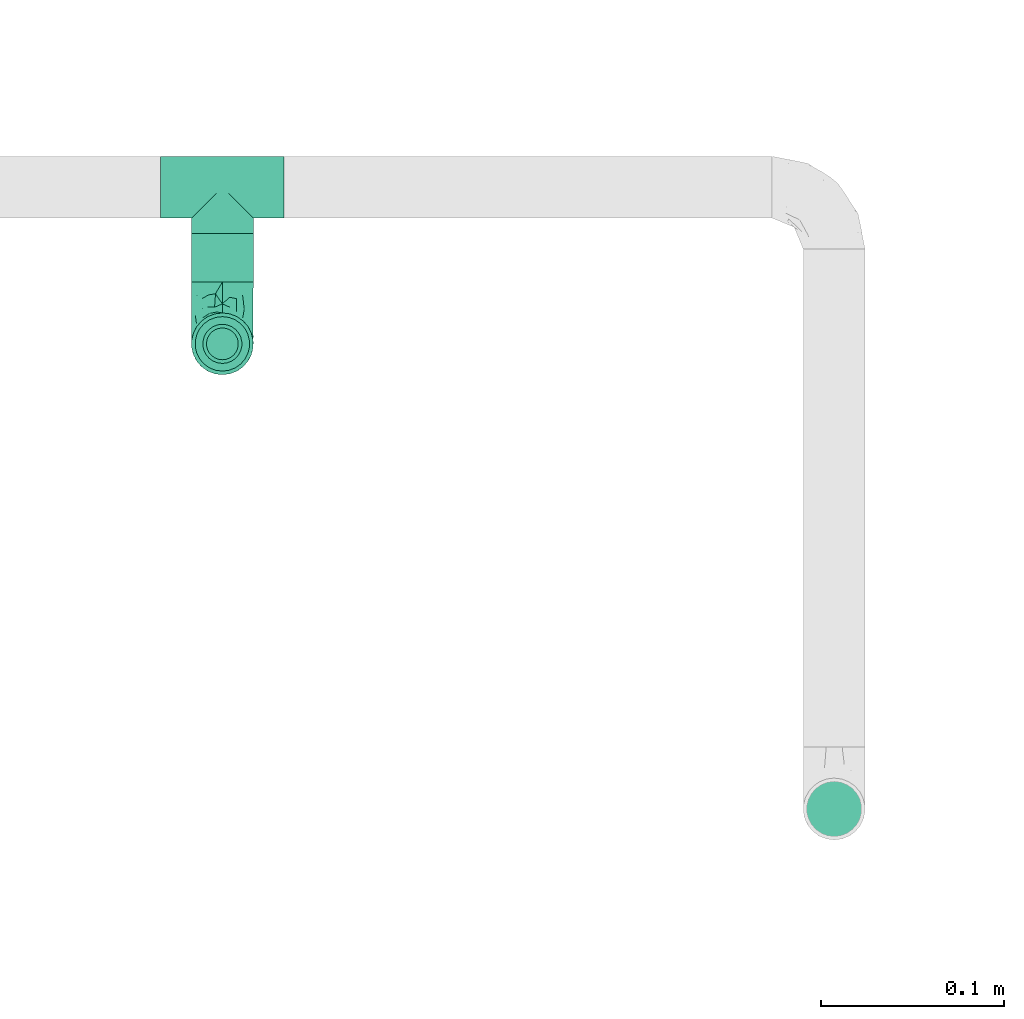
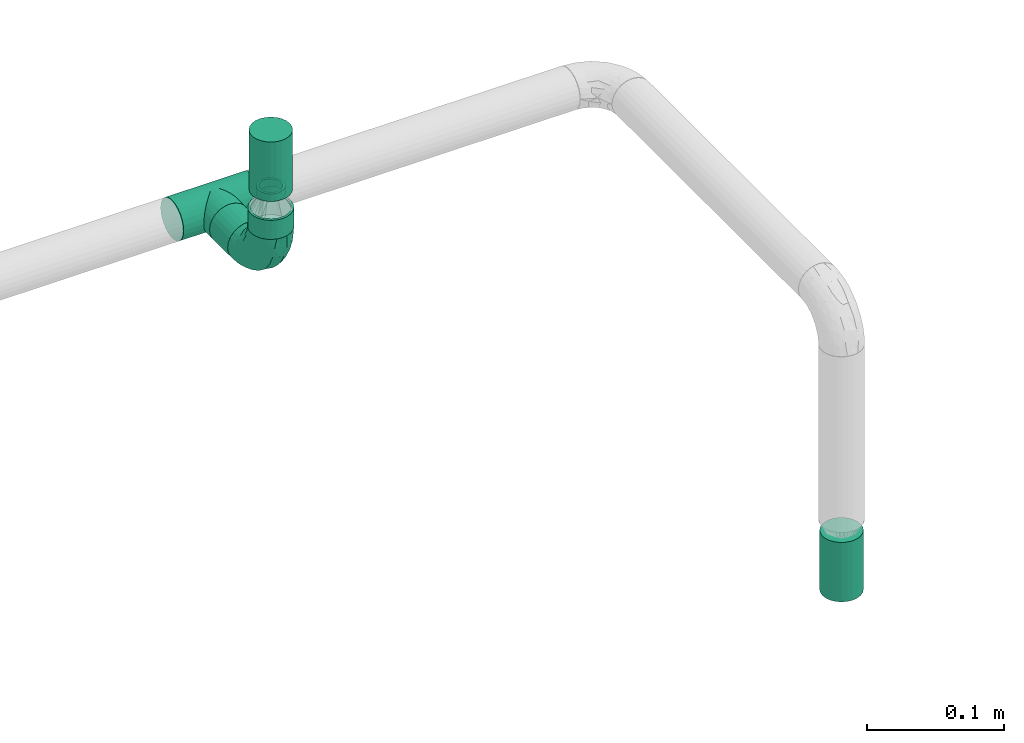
# One storey, part 66 of 95: 3 flow segments, 2 flow fittings, 2 flow terminals.
"""IFC2X3 building model written with IfcOpenShell, lengths in millimetres."""

from ifc_helpers import new_model, entity, si_unit, converted_unit, derived_unit, direction, frame, origin_with_axes, origin_2d_with_axis, place, context, subcontext, project, spatial, hollow_circle, extrude, open_shell, surface_model, source, transform, mapped, type_object, element, save


model = new_model("IFC2X3")

# Units and contexts
model_context = context("Model", 3, precision=0.01, world=frame((0.0, 4.29681676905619e-09, 0.0)), true_north=direction((4.01073788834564e-13, 1.0)))
plan_context = context("Plan", 3, precision=0.01, world=frame((0.0, 4.29681676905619e-09, 0.0)), true_north=direction((4.01073788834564e-13, 1.0)))
body_context = subcontext(model_context, "Body", "Model", "MODEL_VIEW")
ifc_project = project(units=[converted_unit("PLANEANGLEUNIT", "DEGREE", entity("IfcPositiveLengthMeasure", 0.0174532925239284), si_unit("PLANEANGLEUNIT", "RADIAN"), dimensions=[0, 0, 0, 0, 0, 0, 0]), si_unit("AREAUNIT", "SQUARE_METRE"), si_unit("LENGTHUNIT", "METRE", prefix="MILLI"), si_unit("MASSUNIT", "GRAM", prefix="KILO"), si_unit("POWERUNIT", "WATT"), si_unit("PRESSUREUNIT", "PASCAL"), si_unit("FORCEUNIT", "NEWTON", prefix="KILO"), si_unit("ELECTRICVOLTAGEUNIT", "VOLT"), si_unit("ELECTRICCURRENTUNIT", "AMPERE"), si_unit("THERMODYNAMICTEMPERATUREUNIT", "DEGREE_CELSIUS"), si_unit("TIMEUNIT", "SECOND"), si_unit("VOLUMEUNIT", "CUBIC_METRE"), derived_unit("LINEARVELOCITYUNIT", [(si_unit("LENGTHUNIT", "METRE"), 1), (si_unit("TIMEUNIT", "SECOND"), -1)]), derived_unit("VOLUMETRICFLOWRATEUNIT", [(si_unit("VOLUMEUNIT", "CUBIC_METRE"), 1), (si_unit("TIMEUNIT", "SECOND"), -1)]), derived_unit("THERMALTRANSMITTANCEUNIT", [(si_unit("POWERUNIT", "WATT"), 1), (si_unit("THERMODYNAMICTEMPERATUREUNIT", "KELVIN"), -1), (si_unit("AREAUNIT", "SQUARE_METRE"), -1)]), derived_unit("SOUNDPRESSUREUNIT", [(si_unit("PRESSUREUNIT", "PASCAL"), 1)])], contexts=[model_context, plan_context])

# Site, building, storey
site_placement = place(None, frame((0.0, -4.29681676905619e-09, 0.0), z_axis=(0.0, 0.0, 1.0), x_axis=(1.0, 0.0, 0.0)))
site = spatial("IfcSite", under=ifc_project, at=site_placement, CompositionType="ELEMENT")
building_placement = place(site_placement, frame((0.0, 4.29681676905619e-09, 0.0), z_axis=(0.0, 0.0, 1.0), x_axis=(1.0, 0.0, 0.0)))
building = spatial("IfcBuilding", under=site, at=building_placement, Name="mc-building", CompositionType="ELEMENT")
storey_placement = place(building_placement, frame((0.0, 0.0, 210900.0), z_axis=(0.0, 0.0, 1.0), x_axis=(1.0, 0.0, 0.0)))
storey = spatial("IfcBuildingStorey", under=building, at=storey_placement, Name="Nivå F", CompositionType="ELEMENT", Elevation=210900.0)

# Flow fittings
pipe_fitting_type_1 = type_object("IfcPipeFittingType", Name="magi_pipe_fe_elbow_short_001", PredefinedType="BEND")
shared_shape_1 = source(origin_with_axes(), body_context, "Body", "SurfaceModel", [
    surface_model("IfcShellBasedSurfaceModel", [(-33.8, 8.45, -14.63583), (-33.8, 4.37404, -16.32415), (-33.8, 11.9501, -11.9501), (-33.8, -11.9501, -11.9501), (-33.8, -14.63583, -8.45), (-33.8, -8.45, -14.63583), (-33.8, 0.0, -16.9), (-33.8, -4.37404, -16.32415), (-33.8, -4.37404, 16.32415), (-33.8, 0.0, 16.9), (-33.8, -8.45, 14.63583), (-33.8, 16.32415, -4.37404), (-33.8, 14.63583, -8.45), (-33.8, -16.32415, -4.37404), (-33.8, -16.9, 0.0), (-33.8, -16.32415, 4.37404), (-33.8, 11.9501, 11.9501), (-33.8, 14.63583, 8.45), (-33.8, 16.32415, 4.37404), (-33.8, 4.37404, 16.32415), (-33.8, 8.45, 14.63583), (-33.8, -14.63583, 8.45), (-33.8, -11.9501, 11.9501), (-33.8, 16.9, 0.0), (-11.9501, 33.8, -11.9501), (0.0, 33.8, -16.9), (-4.37404, 33.8, -16.32415), (-8.45, 33.8, -14.63583), (-14.63583, 33.8, -8.45), (-16.32415, 33.8, -4.37404), (14.63583, 33.8, -8.45), (8.45, 33.8, 14.63583), (16.32415, 33.8, -4.37404), (8.45, 33.8, -14.63583), (11.9501, 33.8, -11.9501), (4.37404, 33.8, -16.32415), (16.32415, 33.8, 4.37404), (16.9, 33.8, 0.0), (-11.9501, 33.8, 11.9501), (-16.32415, 33.8, 4.37404), (-14.63583, 33.8, 8.45), (-8.45, 33.8, 14.63583), (-4.37404, 33.8, 16.32415), (11.9501, 33.8, 11.9501), (14.63583, 33.8, 8.45), (0.0, 33.8, 16.9), (4.37404, 33.8, 16.32415), (-16.9, 33.8, 0.0), (-24.79389, -13.12945, 9.48721), (-22.19287, -9.75018, 12.59315), (-24.09897, -14.97035, 0.0), (-14.93934, -10.76256, 8.5297), (-22.46095, -14.75051, 5.27077), (14.75051, 22.46094, 5.27077), (11.9251, 13.23888, 4.33236), (13.04069, 14.39795, 0.0), (7.71387, 13.68847, 11.55891), (9.75018, 22.19287, 12.59315), (4.10169, 13.0571, 14.04018), (-24.84007, -6.39063, 15.2048), (-25.81779, -2.23879, 16.61097), (-23.66549, 2.59054, 16.87119), (-26.50418, 14.06512, 11.08152), (-24.21253, 17.66365, 7.72657), (-29.58514, 15.86957, 7.00283), (-6.17382, -7.5455, 0.0), (-13.23888, -11.9251, 4.33236), (-14.39795, -13.04069, 0.0), (-17.81434, 18.87373, 11.97104), (-6.30846, 29.15138, 15.82987), (-2.31622, 25.28002, 16.85849), (-29.23923, 10.23435, 13.77053), (-1.45439, -2.85688, 7.61475), (-0.28326, 0.34872, 10.09509), (-5.74484, -4.04709, 10.4122), (-4.41137, 11.31918, 16.59407), (-8.39727, 3.10034, 15.7812), (-1.72649, 9.1306, 15.53089), (-17.39909, 24.75344, 7.64977), (-26.19233, 20.0512, 0.0), (-28.14518, 17.29657, 4.25857), (-26.05147, 6.6281, 15.96447), (-5.87354, 16.61944, 16.86968), (-12.51807, 12.51807, 16.48937), (-10.06312, 7.38516, 16.81295), (-3.01882, 3.01882, 13.81718), (-13.0571, -4.10169, 14.04018), (-16.82553, -0.15166, 16.38038), (10.76256, 14.93934, 8.5297), (13.12945, 24.79389, 9.48721), (6.39063, 24.84007, 15.2048), (2.23879, 25.81779, 16.61097), (-13.68847, -7.71387, 11.55891), (14.97035, 24.09897, 0.0), (-7.30894, 22.89991, 16.09489), (-10.67958, 26.17414, 14.008), (-12.78295, 18.26924, 15.06066), (-13.88562, 22.45231, 12.93244), (-18.04944, 15.16501, 14.04434), (-23.11658, 20.08178, 4.02986), (-21.84989, 21.84989, 0.0), (-18.55817, 25.48277, 3.93065), (-13.95142, 26.94732, 11.03289), (-18.57098, 7.23906, 16.59756), (-16.58335, 4.14122, 16.89279), (-17.96666, 11.46709, 15.63151), (-9.84453, 17.54304, 16.18938), (0.15166, 16.82553, 16.38038), (-23.27207, 11.47201, 14.23154), (3.84842, 5.86994, 10.70473), (-8.0212, -7.54413, 7.93275), (1.00345, -2.19508, 4.57414), (5.13203, 3.01004, 5.90201), (5.24161, 1.7543, 2.53265), (8.70457, 7.04947, 3.99182), (-20.0512, 26.19233, 0.0), (8.4852, 8.76699, 7.09296), (-4.55488, -6.72064, 4.90681), (2.05031, -2.05031, 0.0), (7.5455, 6.17382, 0.0), (-26.75399, 2.1369, -16.845), (-14.61995, 24.73803, -11.27736), (-28.45274, -13.45335, -9.81895), (-26.00469, 6.63555, -15.96645), (-23.06726, 20.04573, -4.26202), (-13.80647, -4.26506, -14.17873), (-14.67501, -0.21081, -16.07388), (-6.7902, -0.2828, -13.8478), (-24.53586, 11.08096, -14.13417), (-26.72048, 14.00837, -11.05776), (10.0967, 24.44989, -12.75976), (5.83237, 21.40218, -15.03047), (6.66249, 28.54238, -15.38093), (-20.38182, 15.48705, -12.74596), (12.53268, 21.23441, -9.15363), (12.54494, 15.67504, -5.54878), (9.7522, 12.89279, -8.66343), (-15.65186, 19.64213, -13.01327), (-12.03528, 20.66498, -14.67665), (-15.61907, 15.61906, -14.83879), (-25.56551, -15.26206, 0.0), (-24.65452, -15.12934, -5.50955), (13.45335, 28.45274, -9.81895), (15.12934, 24.65452, -5.50955), (-7.35442, -8.31014, -5.65563), (-15.67504, -12.54494, -5.54878), (-24.44989, -10.0967, -12.75976), (0.16522, 0.41303, -9.71728), (-5.70658, -5.33066, -8.89288), (-5.13869, -2.37198, -11.53565), (-21.23441, -12.53268, -9.15363), (0.71146, 7.93863, -14.09382), (0.21081, 14.67501, -16.07388), (3.49291, 14.42772, -14.76381), (-24.89911, -2.13088, -16.591), (-28.54238, -6.66249, -15.38093), (-18.44386, -7.71663, -13.26957), (2.13088, 24.89911, -16.591), (-28.64342, 17.44413, -2.89318), (1.70017, -1.28722, -5.09504), (-16.57067, 26.81947, -7.36596), (-17.69055, 27.4263, -3.76405), (-12.89279, -9.7522, -8.66343), (-5.96611, 5.96611, -15.95814), (-20.53709, 20.09345, -8.28985), (-2.1369, 26.75399, -16.845), (-6.89872, 24.58781, -16.02578), (-10.60739, 26.53157, -13.98044), (-21.40218, -5.83237, -15.03047), (2.93192, 5.89627, -11.55917), (6.89393, 12.61842, -11.82233), (5.58056, 5.95325, -8.79455), (-3.99512, 18.61798, -16.89635), (8.31014, 7.35442, -5.65563), (-9.1383, 9.86148, -16.89041), (-9.99983, 16.02119, -16.39699), (-16.68576, 9.78031, -16.34199), (-27.01915, 16.61158, -7.12979), (15.26206, 25.56551, 0.0), (-18.61798, 3.99512, -16.89635), (-19.37495, 27.82495, 0.0), (-12.61842, -6.89393, -11.82233), (-18.84705, 19.14018, -10.96545)], [open_shell([[[0, 1, 2]], [[3, 4, 5]], [[6, 7, 5]], [[8, 9, 10]], [[1, 6, 2]], [[11, 12, 2]], [[4, 2, 6]], [[2, 13, 10]], [[5, 4, 6]], [[2, 4, 13]], [[14, 15, 13]], [[11, 2, 16]], [[11, 17, 18]], [[11, 16, 17]], [[19, 20, 16]], [[16, 2, 10]], [[19, 16, 10]], [[21, 22, 15]], [[22, 13, 15]], [[22, 10, 13]], [[10, 9, 19]], [[11, 18, 23]], [[24, 25, 26]], [[24, 26, 27]], [[24, 28, 29]], [[25, 24, 30]], [[31, 32, 24]], [[33, 30, 34]], [[33, 35, 25]], [[25, 30, 33]], [[32, 30, 24]], [[32, 36, 37]], [[38, 24, 29]], [[39, 40, 29]], [[40, 38, 29]], [[38, 41, 42]], [[38, 31, 24]], [[31, 38, 42]], [[36, 43, 44]], [[36, 32, 43]], [[31, 45, 46]], [[32, 31, 43]], [[42, 45, 31]], [[39, 29, 47]], [[22, 48, 49]], [[15, 14, 50]], [[51, 48, 52]], [[53, 54, 55]], [[48, 22, 21]], [[15, 52, 21]], [[56, 57, 58]], [[49, 10, 22]], [[49, 59, 10]], [[9, 60, 61]], [[62, 63, 64]], [[65, 66, 67]], [[57, 43, 31]], [[62, 68, 63]], [[42, 69, 70]], [[20, 71, 16]], [[8, 60, 9]], [[72, 73, 74]], [[75, 76, 77]], [[16, 62, 17]], [[40, 39, 78]], [[79, 23, 80]], [[64, 18, 17]], [[9, 61, 19]], [[19, 81, 20]], [[82, 83, 84]], [[74, 85, 86]], [[59, 86, 87]], [[88, 89, 57]], [[90, 31, 46]], [[44, 53, 36]], [[46, 45, 91]], [[54, 53, 88]], [[44, 89, 53]], [[92, 86, 49]], [[89, 44, 43]], [[10, 59, 8]], [[53, 55, 93]], [[93, 36, 53]], [[66, 52, 67]], [[94, 82, 70]], [[95, 96, 94]], [[97, 98, 96]], [[79, 99, 100]], [[41, 38, 95]], [[101, 100, 99]], [[68, 78, 63]], [[42, 41, 69]], [[23, 18, 80]], [[95, 94, 69]], [[78, 101, 99]], [[38, 102, 95]], [[70, 45, 42]], [[97, 95, 102]], [[15, 50, 52]], [[90, 57, 31]], [[57, 90, 58]], [[81, 19, 61]], [[103, 104, 84]], [[105, 81, 103]], [[38, 40, 102]], [[106, 96, 83]], [[94, 106, 82]], [[91, 70, 107]], [[71, 62, 16]], [[62, 108, 98]], [[86, 59, 49]], [[67, 52, 50]], [[60, 59, 87]], [[92, 49, 51]], [[86, 85, 76]], [[91, 90, 46]], [[37, 36, 93]], [[107, 77, 58]], [[107, 58, 90]], [[58, 85, 109]], [[110, 74, 92]], [[72, 74, 110]], [[66, 51, 52]], [[72, 111, 112]], [[113, 114, 112]], [[56, 88, 57]], [[52, 48, 21]], [[49, 48, 51]], [[57, 89, 43]], [[53, 89, 88]], [[103, 81, 61]], [[71, 81, 108]], [[18, 64, 80]], [[63, 78, 99]], [[47, 115, 101]], [[101, 115, 100]], [[40, 78, 102]], [[68, 102, 78]], [[97, 96, 95]], [[105, 98, 108]], [[103, 84, 83]], [[107, 70, 82]], [[76, 84, 87]], [[82, 84, 75]], [[70, 91, 45]], [[90, 91, 107]], [[59, 60, 8]], [[61, 60, 87]], [[73, 85, 74]], [[109, 112, 116]], [[103, 61, 104]], [[105, 103, 83]], [[96, 105, 83]], [[81, 105, 108]], [[96, 98, 105]], [[62, 98, 68]], [[61, 87, 104]], [[87, 84, 104]], [[86, 76, 87]], [[77, 76, 85]], [[58, 77, 85]], [[75, 77, 107]], [[82, 75, 107]], [[76, 75, 84]], [[81, 71, 20]], [[62, 71, 108]], [[95, 69, 41]], [[70, 69, 94]], [[62, 64, 17]], [[80, 63, 99]], [[63, 80, 64]], [[80, 99, 79]], [[66, 65, 117]], [[110, 66, 117]], [[112, 114, 116]], [[118, 117, 65]], [[110, 92, 51]], [[112, 111, 113]], [[119, 55, 54]], [[74, 86, 92]], [[58, 109, 56]], [[116, 56, 109]], [[66, 110, 51]], [[72, 110, 117]], [[111, 72, 117]], [[73, 112, 109]], [[117, 118, 111]], [[113, 111, 118]], [[118, 119, 113]], [[114, 119, 54]], [[119, 114, 113]], [[116, 54, 88]], [[54, 116, 114]], [[116, 88, 56]], [[112, 73, 72]], [[85, 73, 109]], [[78, 39, 101]], [[47, 101, 39]], [[102, 68, 97]], [[97, 68, 98]], [[82, 106, 83]], [[94, 96, 106]], [[1, 120, 6]], [[28, 24, 121]], [[3, 122, 4]], [[0, 123, 1]], [[100, 124, 79]], [[125, 126, 127]], [[128, 2, 129]], [[130, 131, 132]], [[128, 129, 133]], [[134, 135, 136]], [[137, 138, 139]], [[128, 0, 2]], [[67, 140, 141]], [[134, 142, 143]], [[141, 13, 4]], [[144, 65, 145]], [[146, 3, 5]], [[147, 148, 149]], [[145, 141, 150]], [[151, 152, 153]], [[154, 7, 6]], [[5, 155, 146]], [[150, 146, 156]], [[155, 5, 7]], [[143, 135, 134]], [[35, 157, 25]], [[23, 79, 158]], [[148, 159, 144]], [[160, 161, 29]], [[145, 162, 144]], [[163, 152, 151]], [[29, 28, 160]], [[121, 164, 160]], [[33, 34, 130]], [[25, 165, 26]], [[26, 165, 166]], [[142, 34, 30]], [[24, 27, 167]], [[124, 161, 164]], [[157, 35, 132]], [[155, 154, 168]], [[123, 0, 128]], [[169, 170, 171]], [[172, 157, 152]], [[26, 166, 27]], [[132, 35, 33]], [[142, 130, 34]], [[168, 154, 126]], [[136, 135, 173]], [[133, 137, 139]], [[2, 12, 129]], [[170, 131, 130]], [[30, 32, 143]], [[172, 174, 175]], [[176, 123, 128]], [[158, 177, 11]], [[135, 55, 119]], [[167, 27, 166]], [[175, 166, 172]], [[137, 167, 138]], [[122, 141, 4]], [[140, 14, 13]], [[32, 37, 178]], [[170, 130, 134]], [[152, 157, 131]], [[165, 157, 172]], [[153, 170, 151]], [[152, 163, 174]], [[168, 125, 156]], [[122, 146, 150]], [[120, 154, 6]], [[179, 174, 126]], [[179, 126, 154]], [[126, 163, 127]], [[162, 145, 150]], [[140, 13, 141]], [[32, 178, 143]], [[55, 143, 178]], [[177, 129, 12]], [[128, 133, 139]], [[176, 128, 139]], [[120, 123, 179]], [[121, 160, 28]], [[161, 100, 180]], [[166, 175, 138]], [[121, 24, 167]], [[161, 47, 29]], [[79, 124, 158]], [[124, 164, 177]], [[161, 124, 100]], [[136, 171, 170]], [[127, 163, 151]], [[147, 171, 159]], [[148, 144, 162]], [[127, 151, 169]], [[127, 181, 125]], [[129, 177, 164]], [[12, 11, 177]], [[159, 65, 144]], [[67, 141, 145]], [[143, 55, 135]], [[135, 119, 173]], [[123, 120, 1]], [[154, 120, 179]], [[157, 165, 25]], [[166, 165, 172]], [[172, 152, 174]], [[176, 139, 175]], [[126, 174, 163]], [[176, 174, 179]], [[174, 176, 175]], [[123, 176, 179]], [[150, 181, 162]], [[127, 149, 181]], [[181, 148, 162]], [[159, 148, 147]], [[171, 136, 173]], [[170, 134, 136]], [[159, 171, 173]], [[171, 147, 169]], [[169, 147, 149]], [[151, 170, 169]], [[164, 182, 129]], [[182, 121, 137]], [[181, 149, 148]], [[169, 149, 127]], [[182, 137, 133]], [[167, 137, 121]], [[166, 138, 167]], [[175, 139, 138]], [[129, 182, 133]], [[121, 182, 164]], [[161, 160, 164]], [[47, 161, 180]], [[177, 158, 124]], [[23, 158, 11]], [[130, 132, 33]], [[157, 132, 131]], [[143, 142, 30]], [[130, 142, 134]], [[154, 155, 7]], [[146, 155, 168]], [[146, 122, 3]], [[141, 122, 150]], [[152, 131, 153]], [[159, 119, 118]], [[67, 145, 65]], [[170, 153, 131]], [[119, 159, 173]], [[159, 118, 65]], [[156, 125, 181]], [[126, 125, 168]], [[150, 156, 181]], [[168, 156, 146]]])]),
])
flow_fitting_1_placement = place(storey_placement, frame((521865.41856, 454674.42495, 2600.0), z_axis=(1.0, 0.0, 0.0), x_axis=(0.0, 0.0, -1.0)))
element("IfcFlowFitting", 1, at=flow_fitting_1_placement, inside=storey, type_object=pipe_fitting_type_1, Name="magi_pipe_fe_elbow_short_001", context=body_context, shape_type="MappedRepresentation", body=[
    mapped(shared_shape_1, transform((0.0, 0.0, 0.0), scale=1.0)),
])
pipe_fitting_type_2 = type_object("IfcPipeFittingType", Name="magi_pipe_fe_tee_centric_90_NOR", PredefinedType="JUNCTION")
shared_shape_2 = source(origin_with_axes(), body_context, "Body", "SurfaceModel", [
    surface_model("IfcShellBasedSurfaceModel", [(-33.8, 4.37404, -16.32415), (-33.8, 0.0, -16.9), (-33.8, 16.32415, -4.37404), (-33.8, 8.45, -14.63583), (-33.8, 11.9501, -11.9501), (-33.8, 14.63583, -8.45), (-33.8, -16.9, 0.0), (-33.8, -11.9501, -11.9501), (-33.8, -14.63583, -8.45), (-33.8, -8.45, -14.63583), (-33.8, -4.37404, -16.32415), (-33.8, -16.32415, -4.37404), (-33.8, 14.63583, 8.45), (-33.8, 16.32415, 4.37404), (-33.8, -8.45, 14.63583), (-33.8, 8.45, 14.63583), (-33.8, 11.9501, 11.9501), (-33.8, 4.37404, 16.32415), (-33.8, 0.0, 16.9), (-33.8, -11.9501, 11.9501), (-33.8, -14.63583, 8.45), (-33.8, -16.32415, 4.37404), (-33.8, -4.37404, 16.32415), (-33.8, 16.9, 0.0), (33.8, 4.37404, -16.32415), (33.8, -16.9, 0.0), (33.8, 0.0, -16.9), (33.8, 14.63583, -8.45), (33.8, 8.45, -14.63583), (33.8, 16.32415, -4.37404), (33.8, 11.9501, -11.9501), (33.8, -16.32415, 4.37404), (33.8, -8.45, -14.63583), (33.8, -4.37404, -16.32415), (33.8, -11.9501, -11.9501), (33.8, -14.63583, -8.45), (33.8, -16.32415, -4.37404), (33.8, 16.32415, 4.37404), (33.8, 8.45, 14.63583), (33.8, 14.63583, 8.45), (33.8, 11.9501, 11.9501), (33.8, -8.45, 14.63583), (33.8, 4.37404, 16.32415), (33.8, -14.63583, 8.45), (33.8, -11.9501, 11.9501), (33.8, 0.0, 16.9), (33.8, -4.37404, 16.32415), (33.8, 16.9, 0.0), (16.28698, -16.28698, 4.51047), (16.9, -16.9, 0.0), (14.62704, -14.62704, 8.4652), (9.47213, -9.47213, 13.99602), (12.26343, -12.26343, 11.62834), (-16.9, -16.9, 0.0), (-16.28698, -16.28698, 4.51047), (-14.62704, -14.62704, 8.4652), (-12.26343, -12.26343, 11.62834), (-9.47213, -9.47213, 13.99602), (-6.42894, -6.42894, 15.62942), (6.42894, -6.42894, 15.62942), (3.24522, -3.24522, 16.58549), (0.0, 0.0, 16.9), (-3.24522, -3.24522, 16.58549), (3.24522, -3.24522, -16.58549), (0.0, 0.0, -16.9), (-3.24522, -3.24522, -16.58549), (-6.42894, -6.42894, -15.62942), (6.42894, -6.42894, -15.62942), (9.47213, -9.47213, -13.99602), (12.26343, -12.26343, -11.62834), (14.62704, -14.62704, -8.4652), (16.28698, -16.28698, -4.51047), (-9.47213, -9.47213, -13.99602), (-12.26343, -12.26343, -11.62834), (-16.28698, -16.28698, -4.51047), (-14.62704, -14.62704, -8.4652), (4.37404, -25.35, -16.32415), (-16.9, -25.35, 0.0), (0.0, -25.35, -16.9), (14.63583, -25.35, -8.45), (8.45, -25.35, -14.63583), (16.32415, -25.35, -4.37404), (11.9501, -25.35, -11.9501), (-11.9501, -25.35, -11.9501), (-8.45, -25.35, -14.63583), (-4.37404, -25.35, -16.32415), (-14.63583, -25.35, -8.45), (-16.32415, -25.35, -4.37404), (16.9, -25.35, 0.0), (8.45, -25.35, 14.63583), (16.32415, -25.35, 4.37404), (14.63583, -25.35, 8.45), (-8.45, -25.35, 14.63583), (11.9501, -25.35, 11.9501), (4.37404, -25.35, 16.32415), (-16.32415, -25.35, 4.37404), (-11.9501, -25.35, 11.9501), (-14.63583, -25.35, 8.45), (0.0, -25.35, 16.9), (-4.37404, -25.35, 16.32415)], [open_shell([[[0, 1, 2]], [[3, 0, 4]], [[0, 2, 5]], [[4, 0, 5]], [[6, 2, 1]], [[7, 8, 9]], [[1, 10, 9]], [[11, 6, 8]], [[1, 9, 8]], [[1, 8, 6]], [[6, 12, 2]], [[12, 13, 2]], [[14, 12, 6]], [[12, 14, 15]], [[16, 12, 15]], [[17, 15, 18]], [[19, 14, 20]], [[21, 20, 14]], [[22, 18, 14]], [[14, 6, 21]], [[14, 18, 15]], [[23, 2, 13]], [[24, 25, 26]], [[27, 24, 28]], [[27, 29, 24]], [[27, 28, 30]], [[31, 25, 24]], [[26, 32, 33]], [[26, 34, 32]], [[35, 25, 36]], [[35, 34, 26]], [[25, 35, 26]], [[24, 29, 31]], [[29, 37, 38]], [[38, 37, 39]], [[38, 31, 29]], [[38, 39, 40]], [[41, 38, 42]], [[43, 41, 44]], [[41, 43, 31]], [[41, 45, 46]], [[41, 31, 38]], [[42, 45, 41]], [[29, 47, 37]], [[31, 43, 48]], [[25, 31, 49]], [[49, 31, 48]], [[43, 50, 48]], [[44, 41, 51]], [[50, 43, 52]], [[51, 52, 44]], [[52, 43, 44]], [[53, 54, 21]], [[53, 21, 6]], [[21, 54, 20]], [[54, 55, 20]], [[56, 57, 19]], [[19, 20, 56]], [[19, 57, 14]], [[56, 20, 55]], [[14, 57, 58]], [[51, 41, 59]], [[60, 45, 61]], [[59, 46, 60]], [[46, 59, 41]], [[60, 46, 45]], [[61, 45, 42]], [[39, 37, 13]], [[16, 38, 40]], [[12, 40, 39]], [[42, 38, 15]], [[23, 37, 47]], [[62, 61, 18]], [[62, 22, 58]], [[22, 62, 18]], [[58, 22, 14]], [[61, 17, 18]], [[42, 17, 61]], [[15, 17, 42]], [[15, 38, 16]], [[12, 16, 40]], [[13, 12, 39]], [[37, 23, 13]], [[5, 27, 30]], [[23, 47, 29]], [[30, 28, 3]], [[27, 2, 29]], [[26, 33, 63]], [[26, 64, 24]], [[64, 26, 63]], [[28, 24, 0]], [[64, 0, 24]], [[4, 30, 3]], [[2, 27, 5]], [[5, 30, 4]], [[2, 23, 29]], [[65, 66, 10]], [[1, 0, 64]], [[1, 65, 10]], [[66, 9, 10]], [[0, 3, 28]], [[1, 64, 65]], [[63, 33, 67]], [[32, 34, 68]], [[69, 68, 34]], [[35, 70, 69]], [[69, 34, 35]], [[32, 68, 67]], [[36, 25, 49]], [[36, 71, 35]], [[71, 36, 49]], [[35, 71, 70]], [[72, 9, 66]], [[72, 7, 9]], [[7, 72, 73]], [[7, 73, 8]], [[74, 53, 11]], [[75, 74, 8]], [[74, 11, 8]], [[11, 53, 6]], [[75, 8, 73]], [[32, 67, 33]], [[76, 77, 78]], [[79, 76, 80]], [[79, 81, 76]], [[79, 80, 82]], [[77, 76, 81]], [[78, 83, 84]], [[84, 85, 78]], [[86, 77, 87]], [[83, 78, 86]], [[77, 86, 78]], [[81, 88, 77]], [[89, 88, 90]], [[89, 90, 91]], [[92, 77, 89]], [[89, 91, 93]], [[92, 89, 94]], [[95, 96, 97]], [[96, 95, 92]], [[92, 98, 99]], [[95, 77, 92]], [[94, 98, 92]], [[89, 77, 88]], [[77, 95, 53]], [[54, 53, 95]], [[97, 96, 56]], [[96, 92, 57]], [[95, 97, 54]], [[58, 92, 99]], [[55, 54, 97]], [[56, 55, 97]], [[58, 57, 92]], [[98, 61, 62]], [[58, 99, 62]], [[56, 96, 57]], [[62, 99, 98]], [[94, 60, 98]], [[89, 59, 94]], [[91, 90, 48]], [[52, 93, 91]], [[93, 51, 89]], [[49, 90, 88]], [[59, 60, 94]], [[51, 59, 89]], [[49, 48, 90]], [[50, 52, 91]], [[48, 50, 91]], [[51, 93, 52]], [[98, 60, 61]], [[88, 81, 49]], [[71, 49, 81]], [[79, 82, 69]], [[82, 80, 68]], [[81, 79, 71]], [[67, 80, 76]], [[70, 71, 79]], [[69, 70, 79]], [[67, 68, 80]], [[78, 64, 63]], [[67, 76, 63]], [[69, 82, 68]], [[63, 76, 78]], [[85, 65, 78]], [[84, 66, 85]], [[86, 87, 74]], [[86, 73, 83]], [[72, 84, 83]], [[53, 87, 77]], [[66, 65, 85]], [[72, 66, 84]], [[53, 74, 87]], [[75, 73, 86]], [[74, 75, 86]], [[72, 83, 73]], [[78, 65, 64]]])]),
])
flow_fitting_2_placement = place(storey_placement, frame((521865.41856, 454760.05824, 2600.0), z_axis=(0.0, 0.0, -1.0), x_axis=(-1.0, 0.0, 0.0)))
element("IfcFlowFitting", 2, at=flow_fitting_2_placement, inside=storey, type_object=pipe_fitting_type_2, Name="magi_pipe_fe_tee_centric_90_NOR", context=body_context, shape_type="MappedRepresentation", body=[
    mapped(shared_shape_2, transform((0.0, 0.0, 0.0), scale=1.0)),
])

# Flow segments
pipe_segment_type = type_object("IfcPipeSegmentType", Name="Stålrør normaltykke", PredefinedType="RIGIDSEGMENT")
shared_shape_3 = source(origin_with_axes(), body_context, "Body", "SweptSolid", [
    extrude(hollow_circle(Radius=16.9, WallThickness=2.0, at=origin_2d_with_axis()), frame((0.0, 0.0, 0.0), z_axis=(1.0, 0.0, 0.0), x_axis=(0.0, 1.0, 0.0)), (0.0, 0.0, 1.0), 26.5),
])
flow_segment_1_placement = place(storey_placement, frame((521865.41856, 454708.22495, 2600.0), z_axis=(0.0, 0.0, 1.0), x_axis=(0.0, 1.0, 0.0)))
element("IfcFlowSegment", 3, at=flow_segment_1_placement, inside=storey, type_object=pipe_segment_type, Name="Stålrør normaltykke", context=body_context, shape_type="MappedRepresentation", body=[
    mapped(shared_shape_3, transform((0.0, 0.0, 0.0), scale=1.0)),
])
shared_shape_4 = source(origin_with_axes(), body_context, "Body", "SweptSolid", [
    extrude(hollow_circle(Radius=16.9, WallThickness=2.0, at=origin_2d_with_axis()), frame((0.0, 0.0, 0.0), z_axis=(1.0, 0.0, 0.0), x_axis=(0.0, 1.0, 0.0)), (0.0, 0.0, 1.0), 17.0),
])
flow_segment_2_placement = place(storey_placement, frame((521865.41856, 454674.42495, 2633.79999999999), z_axis=(-1.0, 0.0, 0.0), x_axis=(0.0, 0.0, 1.0)))
element("IfcFlowSegment", 4, at=flow_segment_2_placement, inside=storey, type_object=pipe_segment_type, Name="Stålrør normaltykke", context=body_context, shape_type="MappedRepresentation", body=[
    mapped(shared_shape_4, transform((0.0, 0.0, 0.0), scale=1.0)),
])
shared_shape_5 = source(origin_with_axes(), body_context, "Body", "SweptSolid", [
    extrude(hollow_circle(Radius=10.7, WallThickness=2.0, at=origin_2d_with_axis()), frame((0.0, 0.0, 0.0), z_axis=(1.0, 0.0, 0.0), x_axis=(0.0, 1.0, 0.0)), (0.0, 0.0, 1.0), 6.9),
])
flow_segment_3_placement = place(storey_placement, frame((521865.41856, 454674.42495, 2670.04800000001), z_axis=(-1.0, 0.0, 0.0), x_axis=(0.0, 0.0, -1.0)))
element("IfcFlowSegment", 5, at=flow_segment_3_placement, inside=storey, type_object=pipe_segment_type, Name="Stålrør normaltykke", context=body_context, shape_type="MappedRepresentation", body=[
    mapped(shared_shape_5, transform((0.0, 0.0, 0.0), scale=1.0)),
])

# Flow terminals
fire_suppression_terminal_type_1 = type_object("IfcFireSuppressionTerminalType", Name="SP-15-K80-68DGR-STD-HIMLING", PredefinedType="NOTDEFINED")
shared_shape_6 = source(origin_with_axes(), body_context, "Body", "SurfaceModel", [
    surface_model("IfcShellBasedSurfaceModel", [(4.1411, -15.45481, 53.0), (8.0, -13.85641, 53.0), (11.31371, -11.31371, 53.0), (-8.0, -13.85641, 53.0), (15.45481, -4.1411, 53.0), (16.0, 0.0, 53.0), (13.85641, -8.0, 53.0), (0.0, -16.0, 53.0), (-4.1411, -15.45481, 53.0), (-13.85641, -8.0, 53.0), (-11.31371, -11.31371, 53.0), (-15.45481, -4.1411, 53.0), (15.45481, 4.1411, 53.0), (13.85641, 8.0, 53.0), (11.31371, 11.31371, 53.0), (-4.1411, 15.45481, 53.0), (8.0, 13.85641, 53.0), (4.1411, 15.45481, 53.0), (0.0, 16.0, 53.0), (-13.85641, 8.0, 53.0), (-15.45481, 4.1411, 53.0), (-16.0, 0.0, 53.0), (-11.31371, 11.31371, 53.0), (-8.0, 13.85641, 53.0), (0.0, 16.0, 0.0), (4.1411, 15.45481, 0.0), (8.0, 13.85641, 0.0), (-4.1411, 15.45481, 0.0), (11.31371, 11.31371, 0.0), (13.85641, 8.0, 0.0), (15.45481, 4.1411, 0.0), (-15.45481, -4.1411, 0.0), (-11.31371, 11.31371, 0.0), (-8.0, 13.85641, 0.0), (-13.85641, 8.0, 0.0), (-15.45481, 4.1411, 0.0), (-16.0, 0.0, 0.0), (4.1411, -15.45481, 0.0), (16.0, 0.0, 0.0), (15.45481, -4.1411, 0.0), (13.85641, -8.0, 0.0), (11.31371, -11.31371, 0.0), (8.0, -13.85641, 0.0), (-8.0, -13.85641, 0.0), (-13.85641, -8.0, 0.0), (-11.31371, -11.31371, 0.0), (0.0, -16.0, 0.0), (-4.1411, -15.45481, 0.0)], [open_shell([[[0, 1, 2]], [[3, 0, 2]], [[4, 5, 2]], [[4, 2, 6]], [[3, 2, 5]], [[7, 3, 8]], [[7, 0, 3]], [[3, 9, 10]], [[9, 3, 11]], [[5, 11, 3]], [[5, 12, 11]], [[12, 13, 14]], [[15, 12, 14]], [[16, 17, 18]], [[14, 16, 15]], [[18, 15, 16]], [[11, 19, 20]], [[21, 11, 20]], [[22, 15, 23]], [[15, 22, 19]], [[19, 11, 15]], [[11, 12, 15]], [[24, 25, 26]], [[27, 24, 26]], [[28, 29, 30]], [[27, 26, 28]], [[27, 28, 31]], [[27, 32, 33]], [[32, 27, 34]], [[34, 31, 35]], [[31, 34, 27]], [[35, 31, 36]], [[28, 30, 31]], [[37, 38, 39]], [[37, 39, 40]], [[41, 42, 37]], [[41, 37, 40]], [[38, 37, 43]], [[44, 43, 45]], [[43, 44, 31]], [[43, 46, 47]], [[43, 31, 38]], [[37, 46, 43]], [[38, 31, 30]], [[11, 31, 44]], [[45, 9, 44]], [[3, 43, 47]], [[45, 43, 10]], [[8, 47, 46]], [[31, 21, 36]], [[31, 11, 21]], [[44, 9, 11]], [[45, 10, 9]], [[3, 10, 43]], [[47, 8, 3]], [[46, 7, 8]], [[0, 37, 42]], [[41, 1, 42]], [[6, 40, 39]], [[41, 40, 2]], [[4, 39, 38]], [[37, 0, 7]], [[42, 1, 0]], [[41, 2, 1]], [[40, 6, 2]], [[4, 6, 39]], [[38, 5, 4]], [[37, 7, 46]], [[12, 38, 30]], [[13, 30, 29]], [[16, 26, 25]], [[17, 25, 24]], [[30, 13, 12]], [[12, 5, 38]], [[28, 14, 13]], [[28, 26, 14]], [[14, 26, 16]], [[25, 17, 16]], [[28, 13, 29]], [[24, 18, 17]], [[15, 27, 33]], [[32, 23, 33]], [[19, 34, 35]], [[32, 34, 22]], [[20, 35, 36]], [[27, 15, 18]], [[33, 23, 15]], [[32, 22, 23]], [[34, 19, 22]], [[20, 19, 35]], [[36, 21, 20]], [[27, 18, 24]]])]),
])
flow_terminal_1_placement = place(storey_placement, frame((522200.0, 454420.05824, 2400.0), z_axis=(0.0, 0.0, -1.0), x_axis=(-1.0, 0.0, 0.0)))
element("IfcFlowTerminal", 6, at=flow_terminal_1_placement, inside=storey, type_object=fire_suppression_terminal_type_1, Name="SP-15-K80-68DGR-STD-HIMLING", context=body_context, shape_type="MappedRepresentation", body=[
    mapped(shared_shape_6, transform((0.0, 0.0, 0.0), scale=1.0)),
])
fire_suppression_terminal_type_2 = type_object("IfcFireSuppressionTerminalType", Name="SP-15-K80-68DGR-STD-STÅENDE 2", PredefinedType="NOTDEFINED")
flow_terminal_2_placement = place(storey_placement, frame((521865.41856, 454674.42495, 2667.0), z_axis=(0.0, 0.0, 1.0), x_axis=(-1.0, 0.0, 0.0)))
element("IfcFlowTerminal", 7, at=flow_terminal_2_placement, inside=storey, type_object=fire_suppression_terminal_type_2, Name="SP-15-K80-68DGR-STD-STÅENDE 2", context=body_context, shape_type="MappedRepresentation", body=[
    mapped(shared_shape_6, transform((0.0, 0.0, 0.0), scale=1.0)),
])

save(model, "model.ifc")
